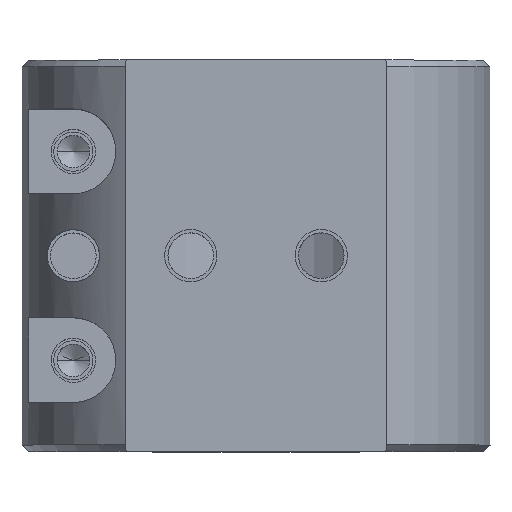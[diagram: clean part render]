
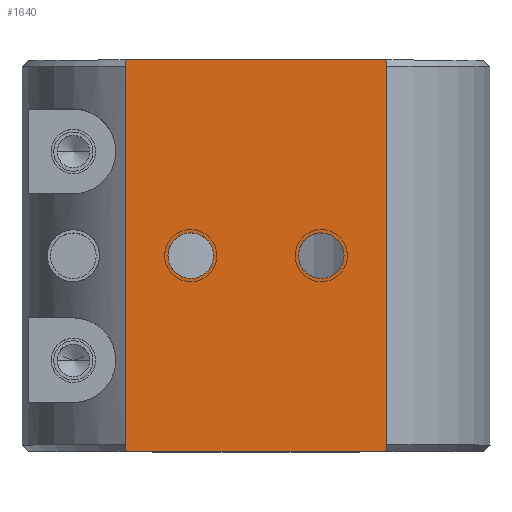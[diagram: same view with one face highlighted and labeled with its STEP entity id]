
A CAD part, top view. The second image highlights one B-rep face of the part: STEP entity #1640.
In plain terms, the highlighted planar face has unit normal (0, 0, 1).
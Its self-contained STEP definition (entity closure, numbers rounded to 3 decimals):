
#19=DIRECTION('',(-1.,0.,0.));
#20=VECTOR('',#19,19.596);
#21=CARTESIAN_POINT('',(9.798,0.,14.5));
#22=LINE('',#21,#20);
#437=CARTESIAN_POINT('',(-10.,29.886,14.5));
#446=DIRECTION('',(0.,-1.,0.));
#447=VECTOR('',#446,29.772);
#448=CARTESIAN_POINT('',(-10.,29.886,14.5));
#449=LINE('',#448,#447);
#457=CARTESIAN_POINT('',(-10.,0.114,14.5));
#462=CARTESIAN_POINT('',(-9.798,30.,14.5));
#463=CARTESIAN_POINT('',(-9.832,29.981,14.5));
#464=CARTESIAN_POINT('',(-9.899,29.943,14.5));
#465=CARTESIAN_POINT('',(-9.966,29.905,14.5));
#466=CARTESIAN_POINT('',(-10.,29.886,14.5));
#471=CARTESIAN_POINT('',(10.,29.886,14.5));
#472=CARTESIAN_POINT('',(9.966,29.905,14.5));
#473=CARTESIAN_POINT('',(9.899,29.943,14.5));
#474=CARTESIAN_POINT('',(9.832,29.981,14.5));
#475=CARTESIAN_POINT('',(9.798,30.,14.5));
#480=DIRECTION('',(0.,-1.,0.));
#481=VECTOR('',#480,29.772);
#482=CARTESIAN_POINT('',(10.,29.886,14.5));
#483=LINE('',#482,#481);
#487=CARTESIAN_POINT('',(9.798,0.,14.5));
#488=CARTESIAN_POINT('',(9.832,0.019,14.5));
#489=CARTESIAN_POINT('',(9.899,0.057,14.5));
#490=CARTESIAN_POINT('',(9.966,0.095,14.5));
#491=CARTESIAN_POINT('',(10.,0.114,14.5));
#496=CARTESIAN_POINT('',(-10.,0.114,14.5));
#497=CARTESIAN_POINT('',(-9.966,0.095,14.5));
#498=CARTESIAN_POINT('',(-9.899,0.057,14.5));
#499=CARTESIAN_POINT('',(-9.832,0.019,14.5));
#500=CARTESIAN_POINT('',(-9.798,0.,14.5));
#505=CARTESIAN_POINT('',(-5.,15.,14.5));
#506=DIRECTION('',(0.,0.,1.));
#507=DIRECTION('',(-1.,0.,0.));
#508=AXIS2_PLACEMENT_3D('',#505,#506,#507);
#513=CARTESIAN_POINT('',(-5.,15.,14.5));
#514=DIRECTION('',(0.,0.,1.));
#515=DIRECTION('',(1.,0.,0.));
#516=AXIS2_PLACEMENT_3D('',#513,#514,#515);
#521=CARTESIAN_POINT('',(5.,15.,14.5));
#522=DIRECTION('',(0.,0.,-1.));
#523=DIRECTION('',(1.,0.,0.));
#524=AXIS2_PLACEMENT_3D('',#521,#522,#523);
#529=CARTESIAN_POINT('',(5.,15.,14.5));
#530=DIRECTION('',(0.,0.,-1.));
#531=DIRECTION('',(-1.,0.,0.));
#532=AXIS2_PLACEMENT_3D('',#529,#530,#531);
#572=DIRECTION('',(-1.,0.,0.));
#573=VECTOR('',#572,19.596);
#574=CARTESIAN_POINT('',(9.798,30.,14.5));
#575=LINE('',#574,#573);
#931=CARTESIAN_POINT('',(10.,29.886,14.5));
#936=CARTESIAN_POINT('',(10.,0.114,14.5));
#1279=VERTEX_POINT('',#437);
#1286=VERTEX_POINT('',#931);
#1298=VERTEX_POINT('',#457);
#1303=VERTEX_POINT('',#936);
#1313=CARTESIAN_POINT('',(-9.798,30.,14.5));
#1314=VERTEX_POINT('',#1313);
#1315=CARTESIAN_POINT('',(9.798,30.,14.5));
#1316=VERTEX_POINT('',#1315);
#1317=CARTESIAN_POINT('',(-9.798,0.,14.5));
#1318=VERTEX_POINT('',#1317);
#1319=CARTESIAN_POINT('',(9.798,0.,14.5));
#1320=VERTEX_POINT('',#1319);
#1323=CARTESIAN_POINT('',(-6.75,15.,14.5));
#1324=CARTESIAN_POINT('',(-3.25,15.,14.5));
#1325=VERTEX_POINT('',#1323);
#1326=VERTEX_POINT('',#1324);
#1328=CARTESIAN_POINT('',(6.75,15.,14.5));
#1330=VERTEX_POINT('',#1328);
#1332=CARTESIAN_POINT('',(3.25,15.,14.5));
#1334=VERTEX_POINT('',#1332);
#1609=CARTESIAN_POINT('',(10.,30.,14.5));
#1610=DIRECTION('',(0.,0.,-1.));
#1611=DIRECTION('',(-1.,0.,0.));
#1612=AXIS2_PLACEMENT_3D('',#1609,#1610,#1611);
#1613=PLANE('',#1612);
#1614=ORIENTED_EDGE('',*,*,#1535,.F.);
#1616=ORIENTED_EDGE('',*,*,#1615,.F.);
#1618=ORIENTED_EDGE('',*,*,#1617,.F.);
#1620=ORIENTED_EDGE('',*,*,#1619,.T.);
#1622=ORIENTED_EDGE('',*,*,#1621,.F.);
#1623=ORIENTED_EDGE('',*,*,#1424,.T.);
#1624=ORIENTED_EDGE('',*,*,#1589,.F.);
#1625=ORIENTED_EDGE('',*,*,#1602,.F.);
#1626=EDGE_LOOP('',(#1614,#1616,#1618,#1620,#1622,#1623,#1624,#1625));
#1627=FACE_OUTER_BOUND('',#1626,.F.);
#1629=ORIENTED_EDGE('',*,*,#1628,.T.);
#1631=ORIENTED_EDGE('',*,*,#1630,.T.);
#1632=EDGE_LOOP('',(#1629,#1631));
#1633=FACE_BOUND('',#1632,.F.);
#1635=ORIENTED_EDGE('',*,*,#1634,.F.);
#1637=ORIENTED_EDGE('',*,*,#1636,.F.);
#1638=EDGE_LOOP('',(#1635,#1637));
#1639=FACE_BOUND('',#1638,.F.);
#467=B_SPLINE_CURVE_WITH_KNOTS('',3,(#462,#463,#464,#465,#466),.UNSPECIFIED.,
.F.,.F.,(4,1,4),(0.,0.5,1.),.UNSPECIFIED.);
#476=B_SPLINE_CURVE_WITH_KNOTS('',3,(#471,#472,#473,#474,#475),.UNSPECIFIED.,
.F.,.F.,(4,1,4),(0.,0.5,1.),.UNSPECIFIED.);
#492=B_SPLINE_CURVE_WITH_KNOTS('',3,(#487,#488,#489,#490,#491),.UNSPECIFIED.,
.F.,.F.,(4,1,4),(0.,0.5,1.),.UNSPECIFIED.);
#501=B_SPLINE_CURVE_WITH_KNOTS('',3,(#496,#497,#498,#499,#500),.UNSPECIFIED.,
.F.,.F.,(4,1,4),(0.,0.5,1.),.UNSPECIFIED.);
#509=CIRCLE('',#508,1.75);
#517=CIRCLE('',#516,1.75);
#525=CIRCLE('',#524,1.75);
#533=CIRCLE('',#532,1.75);
#1424=EDGE_CURVE('',#1320,#1318,#22,.T.);
#1535=EDGE_CURVE('',#1314,#1279,#467,.T.);
#1589=EDGE_CURVE('',#1298,#1318,#501,.T.);
#1602=EDGE_CURVE('',#1279,#1298,#449,.T.);
#1615=EDGE_CURVE('',#1316,#1314,#575,.T.);
#1617=EDGE_CURVE('',#1286,#1316,#476,.T.);
#1619=EDGE_CURVE('',#1286,#1303,#483,.T.);
#1621=EDGE_CURVE('',#1320,#1303,#492,.T.);
#1628=EDGE_CURVE('',#1325,#1326,#509,.T.);
#1630=EDGE_CURVE('',#1326,#1325,#517,.T.);
#1634=EDGE_CURVE('',#1330,#1334,#525,.T.);
#1636=EDGE_CURVE('',#1334,#1330,#533,.T.);
#1640=ADVANCED_FACE('',(#1627,#1633,#1639),#1613,.F.);
